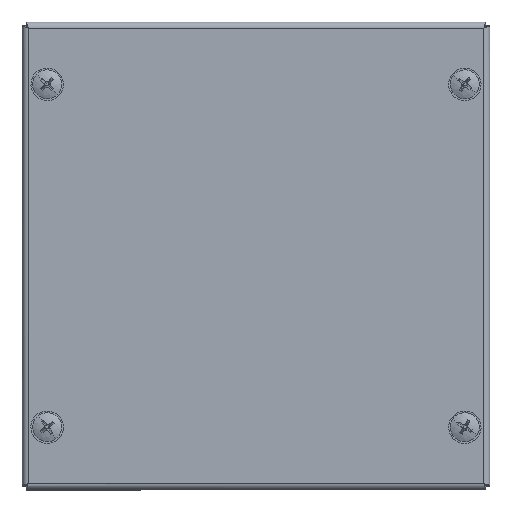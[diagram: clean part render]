
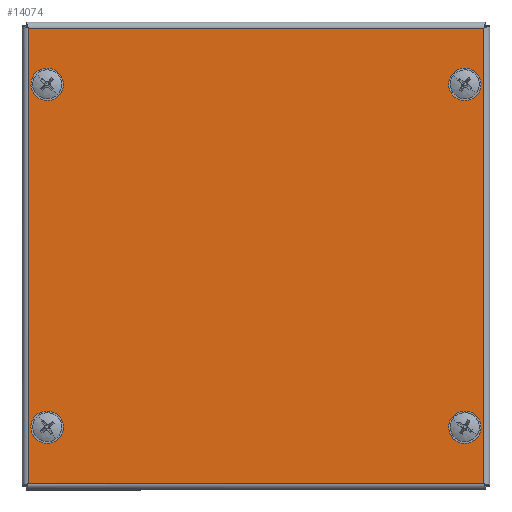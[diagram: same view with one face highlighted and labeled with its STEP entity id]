
A CAD part, top view. The second image highlights one B-rep face of the part: STEP entity #14074.
In plain terms, the highlighted planar face has unit normal (0, 0, 1) as drawn and (0, 0, -1) by its records, which use the part's own axes.
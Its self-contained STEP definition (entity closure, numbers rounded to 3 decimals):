
#110 = DIRECTION ( 'NONE',  ( 1., 0., 0. ) ) ;
#123 = CARTESIAN_POINT ( 'NONE',  ( -73.063, -73.063, -1.2 ) ) ;
#200 = FACE_BOUND ( 'NONE', #2106, .T. ) ;
#453 = CIRCLE ( 'NONE', #15465, 4. ) ;
#471 = AXIS2_PLACEMENT_3D ( 'NONE', #4314, #3193, #13034 ) ;
#583 = CIRCLE ( 'NONE', #15101, 4. ) ;
#854 = EDGE_CURVE ( 'NONE', #12435, #16001, #10620, .T. ) ;
#946 = EDGE_CURVE ( 'NONE', #5534, #7619, #11583, .T. ) ;
#1182 = DIRECTION ( 'NONE',  ( 0., 0., 1. ) ) ;
#1234 = EDGE_CURVE ( 'NONE', #4740, #1840, #9273, .T. ) ;
#1306 = CARTESIAN_POINT ( 'NONE',  ( 59., -67., -1.2 ) ) ;
#1679 = CARTESIAN_POINT ( 'NONE',  ( -59., -67., -1.2 ) ) ;
#1840 = VERTEX_POINT ( 'NONE', #5275 ) ;
#1845 = ORIENTED_EDGE ( 'NONE', *, *, #11957, .T. ) ;
#2041 = CIRCLE ( 'NONE', #2236, 4. ) ;
#2106 = EDGE_LOOP ( 'NONE', ( #8502, #7876 ) ) ;
#2236 = AXIS2_PLACEMENT_3D ( 'NONE', #9062, #15097, #15204 ) ;
#2237 = AXIS2_PLACEMENT_3D ( 'NONE', #14604, #9701, #3384 ) ;
#2336 = FACE_OUTER_BOUND ( 'NONE', #12872, .T. ) ;
#2786 = ORIENTED_EDGE ( 'NONE', *, *, #5173, .T. ) ;
#3017 = ORIENTED_EDGE ( 'NONE', *, *, #946, .T. ) ;
#3121 = DIRECTION ( 'NONE',  ( 1., 0., 0. ) ) ;
#3135 = DIRECTION ( 'NONE',  ( 0., 0., 1. ) ) ;
#3181 = DIRECTION ( 'NONE',  ( 1., 0., 0. ) ) ;
#3193 = DIRECTION ( 'NONE',  ( 0., 0., 1. ) ) ;
#3333 = EDGE_LOOP ( 'NONE', ( #14153, #2786 ) ) ;
#3384 = DIRECTION ( 'NONE',  ( 1., 0., 0. ) ) ;
#3566 = CARTESIAN_POINT ( 'NONE',  ( 73.093, -73.063, -1.2 ) ) ;
#3694 = LINE ( 'NONE', #8577, #7187 ) ;
#3721 = DIRECTION ( 'NONE',  ( 0., 0., 1. ) ) ;
#3793 = ORIENTED_EDGE ( 'NONE', *, *, #15439, .T. ) ;
#4110 = CIRCLE ( 'NONE', #471, 4. ) ;
#4127 = VERTEX_POINT ( 'NONE', #13902 ) ;
#4307 = EDGE_CURVE ( 'NONE', #9970, #4127, #2041, .T. ) ;
#4314 = CARTESIAN_POINT ( 'NONE',  ( 55., -67., -1.2 ) ) ;
#4403 = EDGE_CURVE ( 'NONE', #5262, #15853, #15373, .T. ) ;
#4740 = VERTEX_POINT ( 'NONE', #15997 ) ;
#4801 = DIRECTION ( 'NONE',  ( -1., 0., 0. ) ) ;
#5071 = AXIS2_PLACEMENT_3D ( 'NONE', #5848, #15699, #11940 ) ;
#5080 = ORIENTED_EDGE ( 'NONE', *, *, #1234, .T. ) ;
#5173 = EDGE_CURVE ( 'NONE', #4127, #9970, #4110, .T. ) ;
#5262 = VERTEX_POINT ( 'NONE', #9660 ) ;
#5275 = CARTESIAN_POINT ( 'NONE',  ( 51., 67., -1.2 ) ) ;
#5283 = LINE ( 'NONE', #10031, #11461 ) ;
#5375 = VERTEX_POINT ( 'NONE', #7315 ) ;
#5500 = CARTESIAN_POINT ( 'NONE',  ( -55., -67., -1.2 ) ) ;
#5534 = VERTEX_POINT ( 'NONE', #13906 ) ;
#5834 = DIRECTION ( 'NONE',  ( 0., 0., 1. ) ) ;
#5848 = CARTESIAN_POINT ( 'NONE',  ( -55., 67., -1.2 ) ) ;
#6156 = DIRECTION ( 'NONE',  ( 1., 0., 0. ) ) ;
#6196 = DIRECTION ( 'NONE',  ( 1., 0., 0. ) ) ;
#6335 = VERTEX_POINT ( 'NONE', #10766 ) ;
#7001 = CARTESIAN_POINT ( 'NONE',  ( -51., 67., -1.2 ) ) ;
#7187 = VECTOR ( 'NONE', #12383, 1000. ) ;
#7315 = CARTESIAN_POINT ( 'NONE',  ( 73.063, 73.063, -1.2 ) ) ;
#7536 = CIRCLE ( 'NONE', #15925, 4. ) ;
#7619 = VERTEX_POINT ( 'NONE', #123 ) ;
#7876 = ORIENTED_EDGE ( 'NONE', *, *, #854, .T. ) ;
#7933 = DIRECTION ( 'NONE',  ( 0., 0., 1. ) ) ;
#8189 = LINE ( 'NONE', #16034, #12237 ) ;
#8253 = ORIENTED_EDGE ( 'NONE', *, *, #4403, .T. ) ;
#8446 = DIRECTION ( 'NONE',  ( 0., 1., 0. ) ) ;
#8502 = ORIENTED_EDGE ( 'NONE', *, *, #11915, .T. ) ;
#8546 = AXIS2_PLACEMENT_3D ( 'NONE', #5500, #7933, #3121 ) ;
#8577 = CARTESIAN_POINT ( 'NONE',  ( 73.063, 73.093, -1.2 ) ) ;
#8608 = CARTESIAN_POINT ( 'NONE',  ( -55., 67., -1.2 ) ) ;
#9062 = CARTESIAN_POINT ( 'NONE',  ( 55., -67., -1.2 ) ) ;
#9273 = CIRCLE ( 'NONE', #15570, 4. ) ;
#9585 = ORIENTED_EDGE ( 'NONE', *, *, #15618, .T. ) ;
#9660 = CARTESIAN_POINT ( 'NONE',  ( -51., -67., -1.2 ) ) ;
#9701 = DIRECTION ( 'NONE',  ( 0., 0., 1. ) ) ;
#9970 = VERTEX_POINT ( 'NONE', #1306 ) ;
#10031 = CARTESIAN_POINT ( 'NONE',  ( -73.093, 73.063, -1.2 ) ) ;
#10416 = VECTOR ( 'NONE', #4801, 1000. ) ;
#10574 = CARTESIAN_POINT ( 'NONE',  ( 55., 67., -1.2 ) ) ;
#10620 = CIRCLE ( 'NONE', #5071, 4. ) ;
#10766 = CARTESIAN_POINT ( 'NONE',  ( -73.063, 73.063, -1.2 ) ) ;
#11020 = FACE_BOUND ( 'NONE', #3333, .T. ) ;
#11179 = CARTESIAN_POINT ( 'NONE',  ( -59., 67., -1.2 ) ) ;
#11461 = VECTOR ( 'NONE', #6156, 1000. ) ;
#11583 = LINE ( 'NONE', #3566, #10416 ) ;
#11775 = EDGE_CURVE ( 'NONE', #7619, #6335, #8189, .T. ) ;
#11915 = EDGE_CURVE ( 'NONE', #16001, #12435, #453, .T. ) ;
#11940 = DIRECTION ( 'NONE',  ( 1., 0., 0. ) ) ;
#11957 = EDGE_CURVE ( 'NONE', #6335, #5375, #5283, .T. ) ;
#12142 = DIRECTION ( 'NONE',  ( 1., 0., 0. ) ) ;
#12176 = FACE_BOUND ( 'NONE', #14703, .T. ) ;
#12237 = VECTOR ( 'NONE', #8446, 1000. ) ;
#12383 = DIRECTION ( 'NONE',  ( 0., -1., 0. ) ) ;
#12435 = VERTEX_POINT ( 'NONE', #11179 ) ;
#12515 = CARTESIAN_POINT ( 'NONE',  ( 55., 67., -1.2 ) ) ;
#12753 = EDGE_LOOP ( 'NONE', ( #8253, #9585 ) ) ;
#12870 = EDGE_CURVE ( 'NONE', #5375, #5534, #3694, .T. ) ;
#12872 = EDGE_LOOP ( 'NONE', ( #13620, #1845, #13499, #3017 ) ) ;
#13034 = DIRECTION ( 'NONE',  ( 1., 0., 0. ) ) ;
#13239 = CARTESIAN_POINT ( 'NONE',  ( -55., -67., -1.2 ) ) ;
#13363 = FACE_BOUND ( 'NONE', #12753, .T. ) ;
#13499 = ORIENTED_EDGE ( 'NONE', *, *, #12870, .T. ) ;
#13620 = ORIENTED_EDGE ( 'NONE', *, *, #11775, .T. ) ;
#13902 = CARTESIAN_POINT ( 'NONE',  ( 51., -67., -1.2 ) ) ;
#13906 = CARTESIAN_POINT ( 'NONE',  ( 73.063, -73.063, -1.2 ) ) ;
#14074 = ADVANCED_FACE ( 'NONE', ( #13363, #11020, #12176, #200, #2336 ), #15964, .F. ) ;
#14153 = ORIENTED_EDGE ( 'NONE', *, *, #4307, .T. ) ;
#14604 = CARTESIAN_POINT ( 'NONE',  ( 0., 0., -1.2 ) ) ;
#14703 = EDGE_LOOP ( 'NONE', ( #5080, #3793 ) ) ;
#15097 = DIRECTION ( 'NONE',  ( 0., 0., 1. ) ) ;
#15101 = AXIS2_PLACEMENT_3D ( 'NONE', #10574, #3135, #3181 ) ;
#15204 = DIRECTION ( 'NONE',  ( 1., 0., 0. ) ) ;
#15373 = CIRCLE ( 'NONE', #8546, 4. ) ;
#15439 = EDGE_CURVE ( 'NONE', #1840, #4740, #583, .T. ) ;
#15465 = AXIS2_PLACEMENT_3D ( 'NONE', #8608, #3721, #110 ) ;
#15570 = AXIS2_PLACEMENT_3D ( 'NONE', #12515, #1182, #6196 ) ;
#15618 = EDGE_CURVE ( 'NONE', #15853, #5262, #7536, .T. ) ;
#15699 = DIRECTION ( 'NONE',  ( 0., 0., 1. ) ) ;
#15853 = VERTEX_POINT ( 'NONE', #1679 ) ;
#15925 = AXIS2_PLACEMENT_3D ( 'NONE', #13239, #5834, #12142 ) ;
#15964 = PLANE ( 'NONE',  #2237 ) ;
#15997 = CARTESIAN_POINT ( 'NONE',  ( 59., 67., -1.2 ) ) ;
#16001 = VERTEX_POINT ( 'NONE', #7001 ) ;
#16034 = CARTESIAN_POINT ( 'NONE',  ( -73.063, -73.093, -1.2 ) ) ;
